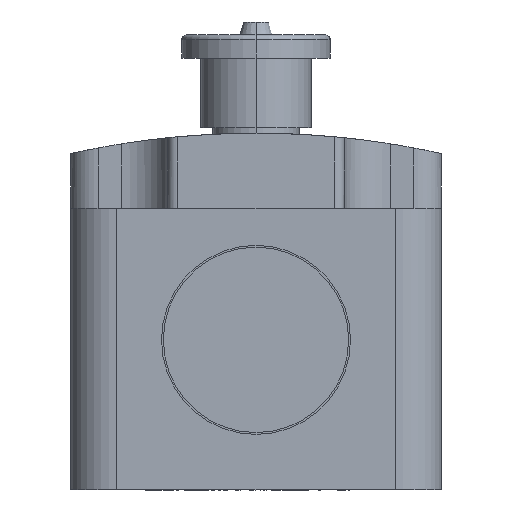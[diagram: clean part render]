
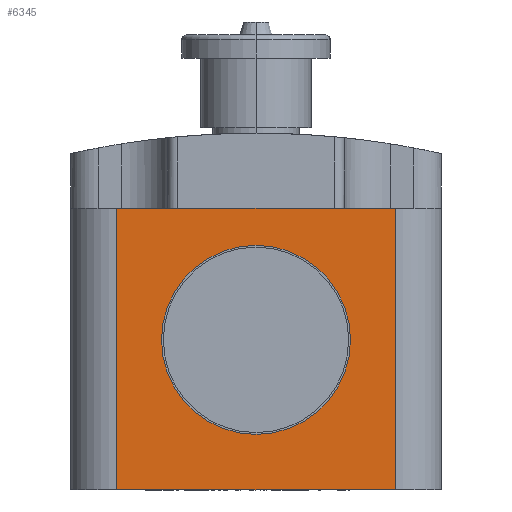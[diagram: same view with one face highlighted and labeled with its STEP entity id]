
A CAD part, front view. The second image highlights one B-rep face of the part: STEP entity #6345.
In plain terms, the highlighted planar face has unit normal (0, -1, 0).
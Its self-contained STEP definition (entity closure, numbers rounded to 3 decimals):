
#74 = DIRECTION ( 'NONE',  ( 0., 0., -1. ) ) ;
#417 = CARTESIAN_POINT ( 'NONE',  ( 15., -66., -16.2 ) ) ;
#816 = FACE_OUTER_BOUND ( 'NONE', #12565, .T. ) ;
#2249 = ORIENTED_EDGE ( 'NONE', *, *, #10010, .F. ) ;
#3107 = CARTESIAN_POINT ( 'NONE',  ( 20., -66., 14.2 ) ) ;
#3477 = VECTOR ( 'NONE', #10592, 1000. ) ;
#3835 = DIRECTION ( 'NONE',  ( 0., 0., 1. ) ) ;
#4341 = CARTESIAN_POINT ( 'NONE',  ( -15., -66., -16.2 ) ) ;
#5188 = VECTOR ( 'NONE', #3835, 1000. ) ;
#5189 = VECTOR ( 'NONE', #13109, 1000. ) ;
#5690 = DIRECTION ( 'NONE',  ( 0., -1., 0. ) ) ;
#5833 = VERTEX_POINT ( 'NONE', #18675 ) ;
#5898 = AXIS2_PLACEMENT_3D ( 'NONE', #17375, #7373, #19051 ) ;
#6264 = VERTEX_POINT ( 'NONE', #21477 ) ;
#6345 = ADVANCED_FACE ( 'NONE', ( #9100, #816 ), #18310, .T. ) ;
#6505 = CARTESIAN_POINT ( 'NONE',  ( 15., -66., 14.2 ) ) ;
#6685 = AXIS2_PLACEMENT_3D ( 'NONE', #15651, #5690, #17353 ) ;
#6896 = EDGE_CURVE ( 'NONE', #13156, #14652, #9592, .T. ) ;
#7103 = EDGE_LOOP ( 'NONE', ( #19847, #2249 ) ) ;
#7373 = DIRECTION ( 'NONE',  ( 0., -1., 0. ) ) ;
#7495 = CIRCLE ( 'NONE', #5898, 10.2 ) ;
#7555 = EDGE_CURVE ( 'NONE', #6264, #5833, #7495, .T. ) ;
#8813 = VECTOR ( 'NONE', #10224, 1000. ) ;
#9100 = FACE_BOUND ( 'NONE', #7103, .T. ) ;
#9444 = VERTEX_POINT ( 'NONE', #4341 ) ;
#9592 = LINE ( 'NONE', #3107, #5189 ) ;
#10001 = DIRECTION ( 'NONE',  ( 0., -1., 0. ) ) ;
#10010 = EDGE_CURVE ( 'NONE', #5833, #6264, #13755, .T. ) ;
#10224 = DIRECTION ( 'NONE',  ( 0., 0., -1. ) ) ;
#10592 = DIRECTION ( 'NONE',  ( 1., 0., 0. ) ) ;
#11082 = ORIENTED_EDGE ( 'NONE', *, *, #6896, .F. ) ;
#12565 = EDGE_LOOP ( 'NONE', ( #14379, #16704, #11082, #18317 ) ) ;
#13109 = DIRECTION ( 'NONE',  ( 1., 0., 0. ) ) ;
#13156 = VERTEX_POINT ( 'NONE', #16846 ) ;
#13755 = CIRCLE ( 'NONE', #6685, 10.2 ) ;
#13846 = EDGE_CURVE ( 'NONE', #9444, #15639, #16257, .T. ) ;
#14379 = ORIENTED_EDGE ( 'NONE', *, *, #13846, .T. ) ;
#14652 = VERTEX_POINT ( 'NONE', #6505 ) ;
#15493 = CARTESIAN_POINT ( 'NONE',  ( 15., -66., -16.2 ) ) ;
#15639 = VERTEX_POINT ( 'NONE', #417 ) ;
#15651 = CARTESIAN_POINT ( 'NONE',  ( 0., -66., 0. ) ) ;
#16257 = LINE ( 'NONE', #20628, #3477 ) ;
#16470 = AXIS2_PLACEMENT_3D ( 'NONE', #20012, #10001, #74 ) ;
#16641 = LINE ( 'NONE', #20250, #8813 ) ;
#16704 = ORIENTED_EDGE ( 'NONE', *, *, #17489, .T. ) ;
#16846 = CARTESIAN_POINT ( 'NONE',  ( -15., -66., 14.2 ) ) ;
#17353 = DIRECTION ( 'NONE',  ( 0., 0., -1. ) ) ;
#17375 = CARTESIAN_POINT ( 'NONE',  ( 0., -66., 0. ) ) ;
#17489 = EDGE_CURVE ( 'NONE', #15639, #14652, #18479, .T. ) ;
#17948 = EDGE_CURVE ( 'NONE', #13156, #9444, #16641, .T. ) ;
#18310 = PLANE ( 'NONE',  #16470 ) ;
#18317 = ORIENTED_EDGE ( 'NONE', *, *, #17948, .T. ) ;
#18479 = LINE ( 'NONE', #15493, #5188 ) ;
#18675 = CARTESIAN_POINT ( 'NONE',  ( 0., -66., 10.2 ) ) ;
#19051 = DIRECTION ( 'NONE',  ( 0., 0., -1. ) ) ;
#19847 = ORIENTED_EDGE ( 'NONE', *, *, #7555, .F. ) ;
#20012 = CARTESIAN_POINT ( 'NONE',  ( 20., -66., -16.2 ) ) ;
#20250 = CARTESIAN_POINT ( 'NONE',  ( -15., -66., -16.2 ) ) ;
#20628 = CARTESIAN_POINT ( 'NONE',  ( 20., -66., -16.2 ) ) ;
#21477 = CARTESIAN_POINT ( 'NONE',  ( 0., -66., -10.2 ) ) ;
